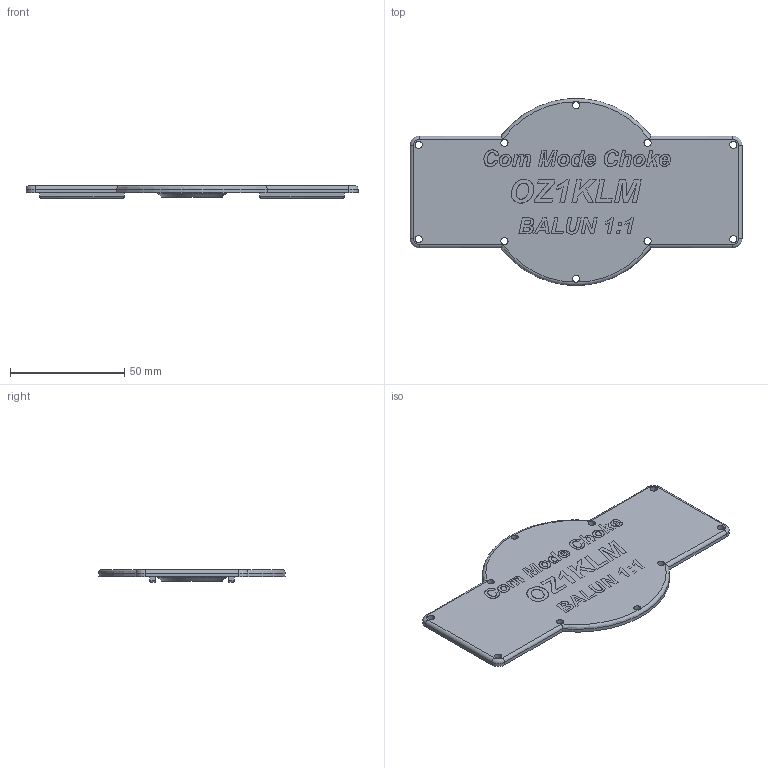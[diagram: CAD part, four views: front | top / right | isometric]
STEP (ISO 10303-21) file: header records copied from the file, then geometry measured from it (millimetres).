
FILE_DESCRIPTION(/* description */ (''),/* implementation_level */ '2;1');
FILE_NAME(/* name */ 'Balun70mm_PL_OZ1KLM_V2_Top.step',/* time_stamp */ '2026-06-20T11:32:30+02:00',/* author */ (''),/* organization */ (''),/* preprocessor_version */ 'ST-DEVELOPER v20.1',/* originating_system */ 'Autodesk Translation Framework v15.8.0.0',/* authorisation */ '');
FILE_SCHEMA (('AUTOMOTIVE_DESIGN { 1 0 10303 214 3 1 1 }'));
Length unit declared in the file: millimetre
Products named in the file (3): 2026-06-17-18-00-12-929; 2026-06-16-10-17-01-501; 2026-06-16-10-40-35-221
Assembly tree (2 placements, depth 3):
  2026-06-17-18-00-12-929
    2026-06-16-10-17-01-501
      2026-06-16-10-40-35-221
Bounding box: 145.42 x 81.71 x 5.5 mm (x, y, z)
Volume: 26047.6 mm3; surface area: 22519.4 mm2
Topology: 28 solids, 28 shells, 749 faces, 1939 edges, 1287 vertices
Faces by surface type: plane 425, bspline 281, cylinder 36, torus 6, cone 1
Full cylindrical faces by diameter (mm): 3.1 x10, 26 x1, 30 x1
Entity records: 27736 total; most frequent: CARTESIAN_POINT 11152, ORIENTED_EDGE 3878, DIRECTION 2386, EDGE_CURVE 1939, LINE 1296, VECTOR 1296, VERTEX_POINT 1287, EDGE_LOOP 830
